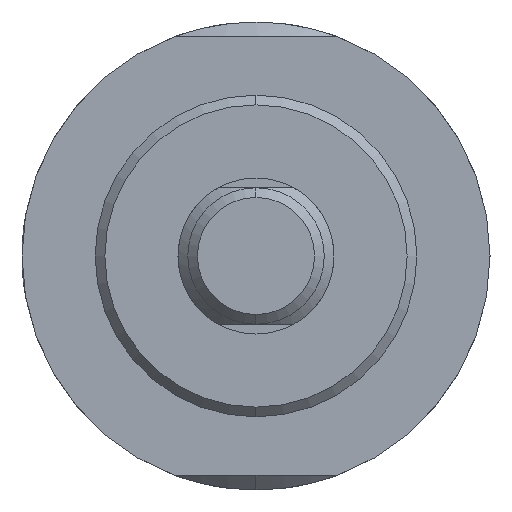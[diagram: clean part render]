
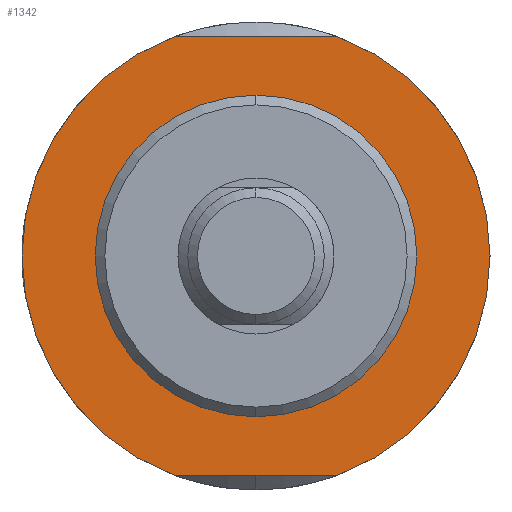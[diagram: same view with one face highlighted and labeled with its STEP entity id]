
A CAD part, left-side view. The second image highlights one B-rep face of the part: STEP entity #1342.
In plain terms, the highlighted planar face has unit normal (-1, 0, 0).
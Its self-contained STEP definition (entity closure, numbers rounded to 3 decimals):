
#11 = VERTEX_POINT ( 'NONE', #215 ) ;
#71 = VERTEX_POINT ( 'NONE', #1745 ) ;
#85 = CARTESIAN_POINT ( 'NONE',  ( 50., 0., 0. ) ) ;
#153 = DIRECTION ( 'NONE',  ( 0., -1., 0. ) ) ;
#185 = EDGE_CURVE ( 'NONE', #71, #550, #1055, .T. ) ;
#210 = ORIENTED_EDGE ( 'NONE', *, *, #1105, .F. ) ;
#215 = CARTESIAN_POINT ( 'NONE',  ( 50., 8.352, -22.5 ) ) ;
#230 = EDGE_LOOP ( 'NONE', ( #1125, #1578 ) ) ;
#243 = DIRECTION ( 'NONE',  ( 0., 0., 1. ) ) ;
#257 = PLANE ( 'NONE',  #345 ) ;
#321 = DIRECTION ( 'NONE',  ( 0., 0., -1. ) ) ;
#345 = AXIS2_PLACEMENT_3D ( 'NONE', #1388, #1202, #321 ) ;
#411 = VECTOR ( 'NONE', #153, 1000. ) ;
#416 = EDGE_LOOP ( 'NONE', ( #912, #423, #1756, #210 ) ) ;
#423 = ORIENTED_EDGE ( 'NONE', *, *, #1883, .F. ) ;
#464 = DIRECTION ( 'NONE',  ( -1., 0., 0. ) ) ;
#505 = FACE_BOUND ( 'NONE', #230, .T. ) ;
#526 = DIRECTION ( 'NONE',  ( -1., 0., 0. ) ) ;
#545 = LINE ( 'NONE', #1758, #1572 ) ;
#550 = VERTEX_POINT ( 'NONE', #1726 ) ;
#564 = DIRECTION ( 'NONE',  ( 0., 0., 1. ) ) ;
#615 = DIRECTION ( 'NONE',  ( 0., 0., 1. ) ) ;
#639 = VERTEX_POINT ( 'NONE', #1573 ) ;
#678 = DIRECTION ( 'NONE',  ( -1., 0., 0. ) ) ;
#766 = LINE ( 'NONE', #1255, #411 ) ;
#778 = VERTEX_POINT ( 'NONE', #1870 ) ;
#865 = DIRECTION ( 'NONE',  ( -1., 0., 0. ) ) ;
#912 = ORIENTED_EDGE ( 'NONE', *, *, #971, .T. ) ;
#971 = EDGE_CURVE ( 'NONE', #639, #11, #1906, .T. ) ;
#1055 = CIRCLE ( 'NONE', #1198, 24. ) ;
#1105 = EDGE_CURVE ( 'NONE', #639, #550, #766, .T. ) ;
#1125 = ORIENTED_EDGE ( 'NONE', *, *, #1534, .F. ) ;
#1198 = AXIS2_PLACEMENT_3D ( 'NONE', #1649, #526, #243 ) ;
#1202 = DIRECTION ( 'NONE',  ( 1., 0., 0. ) ) ;
#1255 = CARTESIAN_POINT ( 'NONE',  ( 50., 15., 22.5 ) ) ;
#1278 = AXIS2_PLACEMENT_3D ( 'NONE', #1936, #678, #615 ) ;
#1328 = DIRECTION ( 'NONE',  ( 0., 1., 0. ) ) ;
#1342 = ADVANCED_FACE ( 'NONE', ( #505, #1480 ), #257, .F. ) ;
#1370 = AXIS2_PLACEMENT_3D ( 'NONE', #1434, #865, #1709 ) ;
#1388 = CARTESIAN_POINT ( 'NONE',  ( 50., 0., -24. ) ) ;
#1434 = CARTESIAN_POINT ( 'NONE',  ( 50., 0., 0. ) ) ;
#1471 = CARTESIAN_POINT ( 'NONE',  ( 50., 0., -16.5 ) ) ;
#1480 = FACE_OUTER_BOUND ( 'NONE', #416, .T. ) ;
#1534 = EDGE_CURVE ( 'NONE', #778, #1550, #1564, .T. ) ;
#1550 = VERTEX_POINT ( 'NONE', #1471 ) ;
#1564 = CIRCLE ( 'NONE', #1278, 16.5 ) ;
#1572 = VECTOR ( 'NONE', #1328, 1000. ) ;
#1573 = CARTESIAN_POINT ( 'NONE',  ( 50., 8.352, 22.5 ) ) ;
#1578 = ORIENTED_EDGE ( 'NONE', *, *, #1593, .F. ) ;
#1582 = AXIS2_PLACEMENT_3D ( 'NONE', #85, #464, #564 ) ;
#1593 = EDGE_CURVE ( 'NONE', #1550, #778, #1706, .T. ) ;
#1649 = CARTESIAN_POINT ( 'NONE',  ( 50., 0., 0. ) ) ;
#1706 = CIRCLE ( 'NONE', #1370, 16.5 ) ;
#1709 = DIRECTION ( 'NONE',  ( 0., 0., 1. ) ) ;
#1726 = CARTESIAN_POINT ( 'NONE',  ( 50., -8.352, 22.5 ) ) ;
#1745 = CARTESIAN_POINT ( 'NONE',  ( 50., -8.352, -22.5 ) ) ;
#1756 = ORIENTED_EDGE ( 'NONE', *, *, #185, .T. ) ;
#1758 = CARTESIAN_POINT ( 'NONE',  ( 50., 15., -22.5 ) ) ;
#1870 = CARTESIAN_POINT ( 'NONE',  ( 50., 0., 16.5 ) ) ;
#1883 = EDGE_CURVE ( 'NONE', #71, #11, #545, .T. ) ;
#1906 = CIRCLE ( 'NONE', #1582, 24. ) ;
#1936 = CARTESIAN_POINT ( 'NONE',  ( 50., 0., 0. ) ) ;
